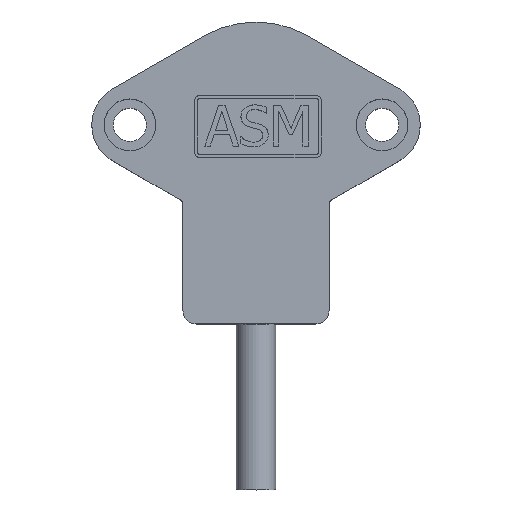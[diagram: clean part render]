
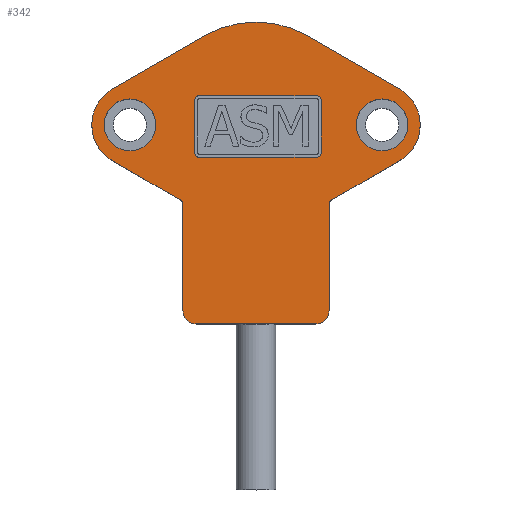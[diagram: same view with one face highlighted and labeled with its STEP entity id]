
A CAD part, top view. The second image highlights one B-rep face of the part: STEP entity #342.
In plain terms, the highlighted planar face has unit normal (0, 0, 1).
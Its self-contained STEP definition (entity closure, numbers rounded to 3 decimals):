
#73=CARTESIAN_POINT('',(21.625,5.413,10.0));
#74=VERTEX_POINT('',#73);
#75=CARTESIAN_POINT('',(21.625,-5.413,10.0));
#76=VERTEX_POINT('',#75);
#77=CARTESIAN_POINT('',(18.5,0.,10.0));
#78=DIRECTION('',(0.0,0.0,-1.0));
#79=DIRECTION('',(1.0,0.0,0.0));
#80=AXIS2_PLACEMENT_3D('',#77,#78,#79);
#81=CIRCLE('',#80,6.25);
#82=EDGE_CURVE('',#74,#76,#81,.T.);
#116=CARTESIAN_POINT('',(11.25,-11.403,10.0));
#117=VERTEX_POINT('',#116);
#118=CARTESIAN_POINT('',(21.625,-5.413,10.0));
#119=DIRECTION('',(-0.866,-0.5,0.0));
#120=VECTOR('',#119,11.98);
#121=LINE('',#118,#120);
#122=EDGE_CURVE('',#76,#117,#121,.T.);
#141=CARTESIAN_POINT('',(0.,-6.253,10.0));
#142=DIRECTION('',(0.0,0.0,1.0));
#143=DIRECTION('',(1.0,0.0,0.0));
#144=AXIS2_PLACEMENT_3D('',#141,#142,#143);
#145=PLANE('',#144);
#146=ORIENTED_EDGE('',*,*,#82,.F.);
#147=CARTESIAN_POINT('',(7.75,13.423,10.0));
#148=VERTEX_POINT('',#147);
#149=CARTESIAN_POINT('',(7.75,13.423,10.0));
#150=DIRECTION('',(0.866,-0.5,0.0));
#151=VECTOR('',#150,16.021);
#152=LINE('',#149,#151);
#153=EDGE_CURVE('',#148,#74,#152,.T.);
#154=ORIENTED_EDGE('',*,*,#153,.F.);
#155=CARTESIAN_POINT('',(-7.75,13.423,10.0));
#156=VERTEX_POINT('',#155);
#157=CARTESIAN_POINT('',(0.0,0.0,10.0));
#158=DIRECTION('',(0.0,0.0,-1.0));
#159=DIRECTION('',(-0.5,-0.866,0.0));
#160=AXIS2_PLACEMENT_3D('',#157,#158,#159);
#161=CIRCLE('',#160,15.5);
#162=EDGE_CURVE('',#156,#148,#161,.T.);
#163=ORIENTED_EDGE('',*,*,#162,.F.);
#164=CARTESIAN_POINT('',(-21.625,5.413,10.0));
#165=VERTEX_POINT('',#164);
#166=CARTESIAN_POINT('',(-21.625,5.413,10.0));
#167=DIRECTION('',(0.866,0.5,0.0));
#168=VECTOR('',#167,16.021);
#169=LINE('',#166,#168);
#170=EDGE_CURVE('',#165,#156,#169,.T.);
#171=ORIENTED_EDGE('',*,*,#170,.F.);
#172=CARTESIAN_POINT('',(-21.625,-5.413,10.0));
#173=VERTEX_POINT('',#172);
#174=CARTESIAN_POINT('',(-18.5,0.,10.0));
#175=DIRECTION('',(0.0,0.0,-1.0));
#176=DIRECTION('',(-1.0,0.0,0.0));
#177=AXIS2_PLACEMENT_3D('',#174,#175,#176);
#178=CIRCLE('',#177,6.25);
#179=EDGE_CURVE('',#173,#165,#178,.T.);
#180=ORIENTED_EDGE('',*,*,#179,.F.);
#181=CARTESIAN_POINT('',(-11.25,-11.403,10.0));
#182=VERTEX_POINT('',#181);
#183=CARTESIAN_POINT('',(-11.25,-11.403,10.0));
#184=DIRECTION('',(-0.866,0.5,0.0));
#185=VECTOR('',#184,11.98);
#186=LINE('',#183,#185);
#187=EDGE_CURVE('',#182,#173,#186,.T.);
#188=ORIENTED_EDGE('',*,*,#187,.F.);
#189=CARTESIAN_POINT('',(-11.0,-11.836,10.0));
#190=VERTEX_POINT('',#189);
#191=CARTESIAN_POINT('',(-11.5,-11.836,10.0));
#192=DIRECTION('',(0.0,0.0,1.0));
#193=DIRECTION('',(1.0,0.0,0.0));
#194=AXIS2_PLACEMENT_3D('',#191,#192,#193);
#195=CIRCLE('',#194,0.5);
#196=EDGE_CURVE('',#190,#182,#195,.T.);
#197=ORIENTED_EDGE('',*,*,#196,.F.);
#198=CARTESIAN_POINT('',(-11.0,-28.,10.0));
#199=VERTEX_POINT('',#198);
#200=CARTESIAN_POINT('',(-11.0,-28.,10.0));
#201=DIRECTION('',(0.0,1.0,0.0));
#202=VECTOR('',#201,16.164);
#203=LINE('',#200,#202);
#204=EDGE_CURVE('',#199,#190,#203,.T.);
#205=ORIENTED_EDGE('',*,*,#204,.F.);
#206=CARTESIAN_POINT('',(-9.0,-30.,10.0));
#207=VERTEX_POINT('',#206);
#208=CARTESIAN_POINT('',(-9.0,-28.,10.0));
#209=DIRECTION('',(0.0,0.0,-1.0));
#210=DIRECTION('',(-0.707,-0.707,0.0));
#211=AXIS2_PLACEMENT_3D('',#208,#209,#210);
#212=CIRCLE('',#211,2.);
#213=EDGE_CURVE('',#207,#199,#212,.T.);
#214=ORIENTED_EDGE('',*,*,#213,.F.);
#215=CARTESIAN_POINT('',(9.0,-30.,10.0));
#216=VERTEX_POINT('',#215);
#217=CARTESIAN_POINT('',(9.0,-30.,10.0));
#218=DIRECTION('',(-1.0,0.0,0.0));
#219=VECTOR('',#218,18.0);
#220=LINE('',#217,#219);
#221=EDGE_CURVE('',#216,#207,#220,.T.);
#222=ORIENTED_EDGE('',*,*,#221,.F.);
#223=CARTESIAN_POINT('',(11.0,-28.,10.0));
#224=VERTEX_POINT('',#223);
#225=CARTESIAN_POINT('',(9.0,-28.,10.0));
#226=DIRECTION('',(0.0,0.0,-1.0));
#227=DIRECTION('',(0.707,-0.707,0.0));
#228=AXIS2_PLACEMENT_3D('',#225,#226,#227);
#229=CIRCLE('',#228,2.);
#230=EDGE_CURVE('',#224,#216,#229,.T.);
#231=ORIENTED_EDGE('',*,*,#230,.F.);
#232=CARTESIAN_POINT('',(11.,-11.836,10.0));
#233=VERTEX_POINT('',#232);
#234=CARTESIAN_POINT('',(11.,-11.836,10.0));
#235=DIRECTION('',(0.0,-1.0,0.0));
#236=VECTOR('',#235,16.164);
#237=LINE('',#234,#236);
#238=EDGE_CURVE('',#233,#224,#237,.T.);
#239=ORIENTED_EDGE('',*,*,#238,.F.);
#240=CARTESIAN_POINT('',(11.5,-11.836,10.0));
#241=DIRECTION('',(0.0,0.0,1.));
#242=DIRECTION('',(-0.5,0.866,0.0));
#243=AXIS2_PLACEMENT_3D('',#240,#241,#242);
#244=CIRCLE('',#243,0.5);
#245=EDGE_CURVE('',#117,#233,#244,.T.);
#246=ORIENTED_EDGE('',*,*,#245,.F.);
#247=ORIENTED_EDGE('',*,*,#122,.F.);
#248=EDGE_LOOP('',(#146,#154,#163,#171,#180,#188,#197,#205,#214,#222,#231,#239,#246,#247));
#249=FACE_OUTER_BOUND('',#248,.T.);
#250=CARTESIAN_POINT('',(-8.487,4.419,10.0));
#251=VERTEX_POINT('',#250);
#252=CARTESIAN_POINT('',(9.051,4.419,10.0));
#253=VERTEX_POINT('',#252);
#254=CARTESIAN_POINT('',(-8.487,4.419,10.0));
#255=DIRECTION('',(1.0,0.0,0.0));
#256=VECTOR('',#255,17.538);
#257=LINE('',#254,#256);
#258=EDGE_CURVE('',#251,#253,#257,.T.);
#259=ORIENTED_EDGE('',*,*,#258,.T.);
#260=CARTESIAN_POINT('',(9.851,3.619,10.0));
#261=VERTEX_POINT('',#260);
#262=CARTESIAN_POINT('',(9.051,3.619,10.0));
#263=DIRECTION('',(0.0,0.0,-1.0));
#264=DIRECTION('',(-1.0,0.0,0.0));
#265=AXIS2_PLACEMENT_3D('',#262,#263,#264);
#266=CIRCLE('',#265,0.8);
#267=EDGE_CURVE('',#253,#261,#266,.T.);
#268=ORIENTED_EDGE('',*,*,#267,.T.);
#269=CARTESIAN_POINT('',(9.851,-4.097,10.0));
#270=VERTEX_POINT('',#269);
#271=CARTESIAN_POINT('',(9.851,3.619,10.0));
#272=DIRECTION('',(0.0,-1.0,0.0));
#273=VECTOR('',#272,7.716);
#274=LINE('',#271,#273);
#275=EDGE_CURVE('',#261,#270,#274,.T.);
#276=ORIENTED_EDGE('',*,*,#275,.T.);
#277=CARTESIAN_POINT('',(9.051,-4.897,10.0));
#278=VERTEX_POINT('',#277);
#279=CARTESIAN_POINT('',(9.051,-4.097,10.0));
#280=DIRECTION('',(0.0,0.0,-1.0));
#281=DIRECTION('',(0.0,1.0,0.0));
#282=AXIS2_PLACEMENT_3D('',#279,#280,#281);
#283=CIRCLE('',#282,0.8);
#284=EDGE_CURVE('',#270,#278,#283,.T.);
#285=ORIENTED_EDGE('',*,*,#284,.T.);
#286=CARTESIAN_POINT('',(-8.487,-4.897,10.0));
#287=VERTEX_POINT('',#286);
#288=CARTESIAN_POINT('',(9.051,-4.897,10.0));
#289=DIRECTION('',(-1.0,0.0,0.0));
#290=VECTOR('',#289,17.538);
#291=LINE('',#288,#290);
#292=EDGE_CURVE('',#278,#287,#291,.T.);
#293=ORIENTED_EDGE('',*,*,#292,.T.);
#294=CARTESIAN_POINT('',(-9.287,-4.097,10.0));
#295=VERTEX_POINT('',#294);
#296=CARTESIAN_POINT('',(-8.487,-4.097,10.0));
#297=DIRECTION('',(0.0,0.0,-1.0));
#298=DIRECTION('',(1.0,0.0,0.0));
#299=AXIS2_PLACEMENT_3D('',#296,#297,#298);
#300=CIRCLE('',#299,0.8);
#301=EDGE_CURVE('',#287,#295,#300,.T.);
#302=ORIENTED_EDGE('',*,*,#301,.T.);
#303=CARTESIAN_POINT('',(-9.287,3.619,10.0));
#304=VERTEX_POINT('',#303);
#305=CARTESIAN_POINT('',(-9.287,-4.097,10.0));
#306=DIRECTION('',(0.0,1.0,0.0));
#307=VECTOR('',#306,7.716);
#308=LINE('',#305,#307);
#309=EDGE_CURVE('',#295,#304,#308,.T.);
#310=ORIENTED_EDGE('',*,*,#309,.T.);
#311=CARTESIAN_POINT('',(-8.487,3.619,10.0));
#312=DIRECTION('',(0.0,0.0,-1.0));
#313=DIRECTION('',(0.0,-1.0,0.0));
#314=AXIS2_PLACEMENT_3D('',#311,#312,#313);
#315=CIRCLE('',#314,0.8);
#316=EDGE_CURVE('',#304,#251,#315,.T.);
#317=ORIENTED_EDGE('',*,*,#316,.T.);
#318=EDGE_LOOP('',(#259,#268,#276,#285,#293,#302,#310,#317));
#319=FACE_BOUND('',#318,.T.);
#320=CARTESIAN_POINT('',(22.9,0.0,10.0));
#321=VERTEX_POINT('',#320);
#322=CARTESIAN_POINT('',(19.0,0.0,10.0));
#323=DIRECTION('',(0.0,0.0,-1.0));
#324=DIRECTION('',(1.0,0.0,0.0));
#325=AXIS2_PLACEMENT_3D('',#322,#323,#324);
#326=CIRCLE('',#325,3.9);
#327=EDGE_CURVE('',#321,#321,#326,.T.);
#328=ORIENTED_EDGE('',*,*,#327,.T.);
#329=EDGE_LOOP('',(#328));
#330=FACE_BOUND('',#329,.T.);
#331=CARTESIAN_POINT('',(-15.1,0.0,10.0));
#332=VERTEX_POINT('',#331);
#333=CARTESIAN_POINT('',(-19.0,0.0,10.0));
#334=DIRECTION('',(0.0,0.0,-1.0));
#335=DIRECTION('',(1.0,0.0,0.0));
#336=AXIS2_PLACEMENT_3D('',#333,#334,#335);
#337=CIRCLE('',#336,3.9);
#338=EDGE_CURVE('',#332,#332,#337,.T.);
#339=ORIENTED_EDGE('',*,*,#338,.T.);
#340=EDGE_LOOP('',(#339));
#341=FACE_BOUND('',#340,.T.);
#342=ADVANCED_FACE('',(#249,#319,#330,#341),#145,.T.);
